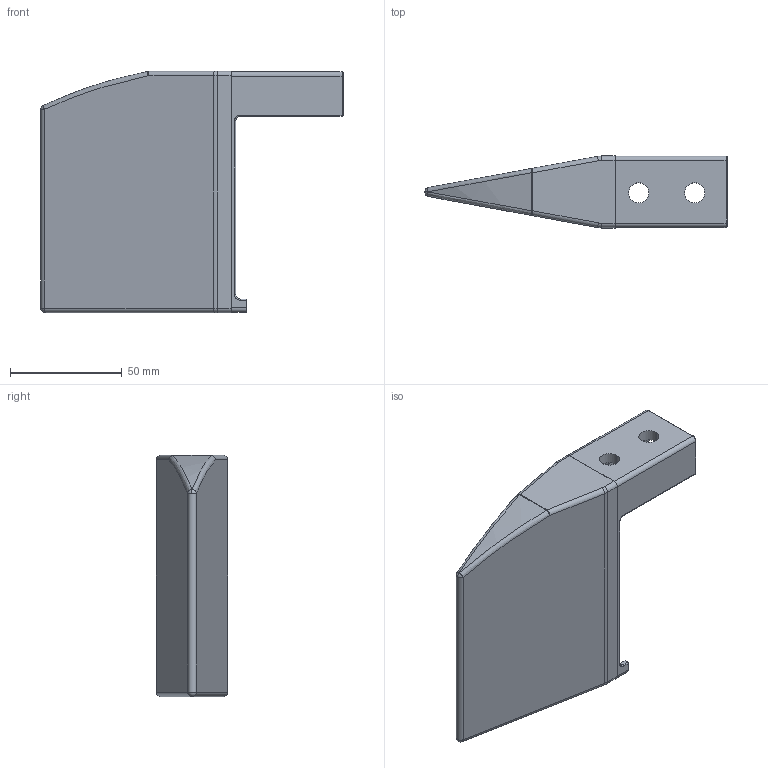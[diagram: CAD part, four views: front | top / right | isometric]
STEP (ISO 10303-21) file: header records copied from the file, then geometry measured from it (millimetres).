
FILE_DESCRIPTION (( 'STEP AP214' ), '1' );
FILE_NAME ('FGEC C2.step', '2017-04-05T07:37:14', ( '' ), ( '' ), 'SwSTEP 2.0', 'SolidWorks 2015', '' );
FILE_SCHEMA (( 'AUTOMOTIVE_DESIGN' ));
Length unit declared in the file: millimetre
Products named in the file (1): FGEC C2
Bounding box: 135 x 32 x 107.7 mm (x, y, z)
Volume: 184046.8 mm3; surface area: 31899.6 mm2
Topology: 1 solids, 1 shells, 121 faces, 282 edges, 159 vertices
Faces by surface type: cylinder 55, plane 33, torus 20, sphere 11, bspline 2
Entity records: 3460 total; most frequent: DIRECTION 646, CARTESIAN_POINT 627, ORIENTED_EDGE 556, EDGE_CURVE 278, AXIS2_PLACEMENT_3D 254, VERTEX_POINT 159, LINE 138, VECTOR 138
